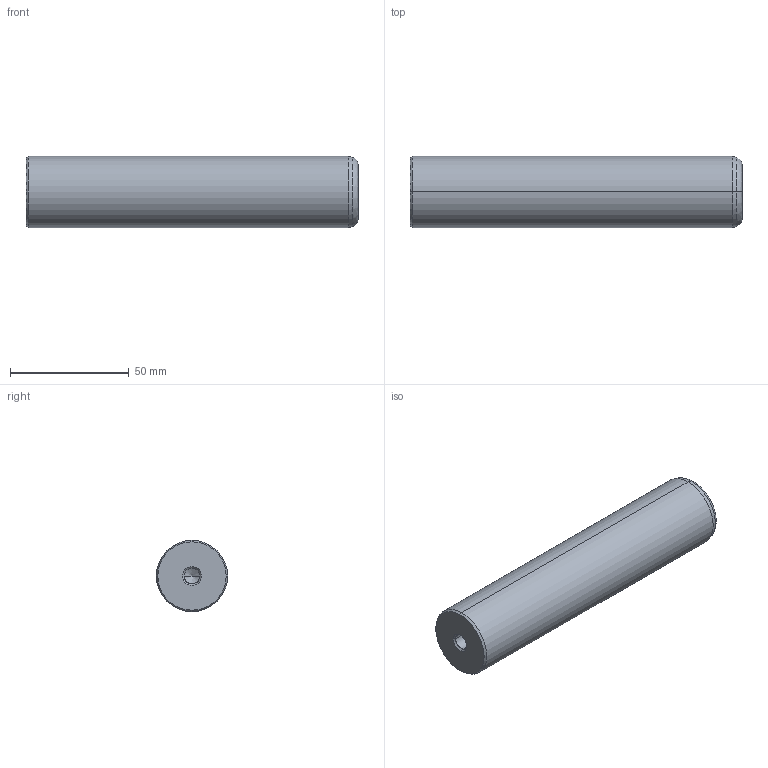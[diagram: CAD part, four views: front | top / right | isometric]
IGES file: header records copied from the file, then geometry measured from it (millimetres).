
Start section: START RECORD GO HERE.
Global section: file name: 720-30x140.igs; native system: DASSAULT SYSTEMES CATIA V5 R20 - www.3ds.com; preprocessor: CATIA Version 5 Release 20 ; author: Utente; organization: NB04-ASUS; date: 20210101.133416; units: millimetre
Bounding box: 140 x 30 x 30 mm (x, y, z)
Surface area: 15405.4 mm2 (no closed solid volume)
Topology: 0 solids, 0 shells, 22 faces, 120 edges, 116 vertices
Faces by surface type: revolution 20, plane 2
